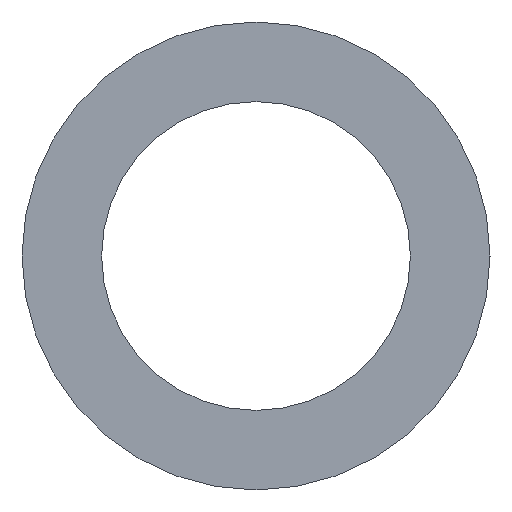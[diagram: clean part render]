
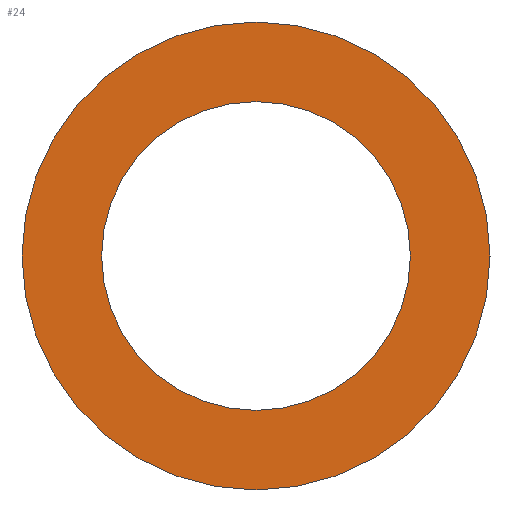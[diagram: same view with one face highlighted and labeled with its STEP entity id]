
A CAD part, left-side view. The second image highlights one B-rep face of the part: STEP entity #24.
In plain terms, the highlighted planar face has unit normal (-1, 0, 0).
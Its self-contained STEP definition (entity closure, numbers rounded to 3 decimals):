
#19=FACE_BOUND('',#36,.F.);
#21=PLANE('',#153);
#24=ADVANCED_FACE('',(#19,#30),#21,.T.);
#30=FACE_OUTER_BOUND('',#37,.F.);
#36=EDGE_LOOP('',(#47,#48));
#37=EDGE_LOOP('',(#49,#50));
#47=ORIENTED_EDGE('',*,*,#90,.T.);
#48=ORIENTED_EDGE('',*,*,#89,.T.);
#49=ORIENTED_EDGE('',*,*,#95,.F.);
#50=ORIENTED_EDGE('',*,*,#91,.F.);
#89=EDGE_CURVE('',#112,#111,#101,.T.);
#90=EDGE_CURVE('',#111,#112,#102,.T.);
#91=EDGE_CURVE('',#110,#109,#103,.T.);
#95=EDGE_CURVE('',#109,#110,#105,.T.);
#101=CIRCLE('',#146,1.65);
#102=CIRCLE('',#147,1.65);
#103=CIRCLE('',#148,2.5);
#105=CIRCLE('',#150,2.5);
#109=VERTEX_POINT('',#204);
#110=VERTEX_POINT('',#205);
#111=VERTEX_POINT('',#206);
#112=VERTEX_POINT('',#207);
#146=AXIS2_PLACEMENT_3D('',#212,#168,#169);
#147=AXIS2_PLACEMENT_3D('',#213,#170,#171);
#148=AXIS2_PLACEMENT_3D('',#214,#172,#173);
#150=AXIS2_PLACEMENT_3D('',#218,#178,#179);
#153=AXIS2_PLACEMENT_3D('',#223,#186,#187);
#168=DIRECTION('',(-1.,0.,0.));
#169=DIRECTION('',(0.,1.,0.));
#170=DIRECTION('',(-1.,0.,0.));
#171=DIRECTION('',(0.,-1.,0.));
#172=DIRECTION('',(-1.,0.,0.));
#173=DIRECTION('',(0.,1.,0.));
#178=DIRECTION('',(-1.,0.,0.));
#179=DIRECTION('',(0.,-1.,0.));
#186=DIRECTION('',(-1.,0.,0.));
#187=DIRECTION('',(0.,0.,1.));
#204=CARTESIAN_POINT('',(4.487,-25.058,70.975));
#205=CARTESIAN_POINT('',(4.487,-20.058,70.975));
#206=CARTESIAN_POINT('',(4.487,-24.208,70.975));
#207=CARTESIAN_POINT('',(4.487,-20.908,70.975));
#212=CARTESIAN_POINT('',(4.487,-22.558,70.975));
#213=CARTESIAN_POINT('',(4.487,-22.558,70.975));
#214=CARTESIAN_POINT('',(4.487,-22.558,70.975));
#218=CARTESIAN_POINT('',(4.487,-22.558,70.975));
#223=CARTESIAN_POINT('',(4.487,-25.108,68.425));
